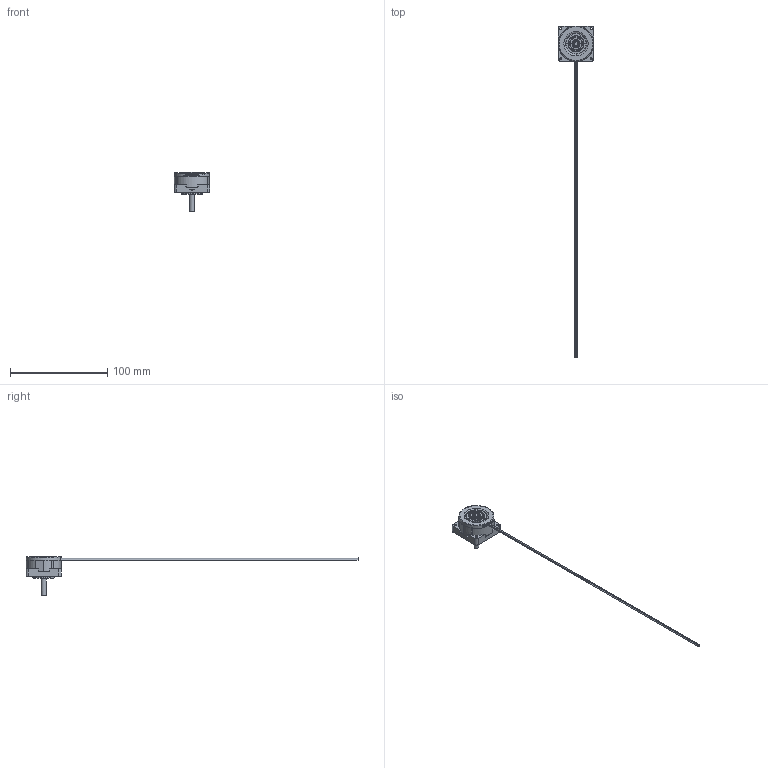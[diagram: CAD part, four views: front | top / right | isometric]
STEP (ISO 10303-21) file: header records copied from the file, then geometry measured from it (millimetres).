
FILE_DESCRIPTION((''),'2;1');
FILE_NAME('L:\3D ipt part for Web\Standard Motor\3709 Model\3709V option 1 to 3.stp','2009-03-24T12:44:22',('hpham'),(''),'Autodesk Inventor 2009','Autodesk Inventor 2009','');
FILE_SCHEMA(('AUTOMOTIVE_DESIGN { 1 0 10303 214 1 1 1 1 }'));
Length unit declared in the file: inch
Products named in the file (1): 3709V option 1 to 3
Bounding box: 36.32 x 340.74 x 40.82 mm (x, y, z)
Surface area: 24038.4 mm2
Topology: 36 solids, 37 shells, 3512 faces, 11119 edges, 7353 vertices
Faces by surface type: cylinder 1697, plane 1479, bspline 256, torus 59, cone 21
Full cylindrical faces by diameter (mm): 0.889 x24, 0.965 x4, 4.991 x1, 5.001 x2, 5.131 x1, 5.207 x1, 6.35 x1, 7.811 x2, 7.823 x2, 7.925 x1, 8.141 x2, 11.938 x1, 12.103 x2, 13.208 x2, 15.999 x3, 16.998 x2, 20.066 x1, 20.32 x1, 20.396 x1, 21.971 x1, 22.004 x1, 23.165 x1, 30.48 x1, 30.988 x1, 34.29 x1
Entity records: 133649 total; most frequent: CARTESIAN_POINT 30784, ORIENTED_EDGE 21946, DIRECTION 21469, EDGE_CURVE 10973, AXIS2_PLACEMENT_3D 7864, VERTEX_POINT 7319, VECTOR 5741, LINE 5741
